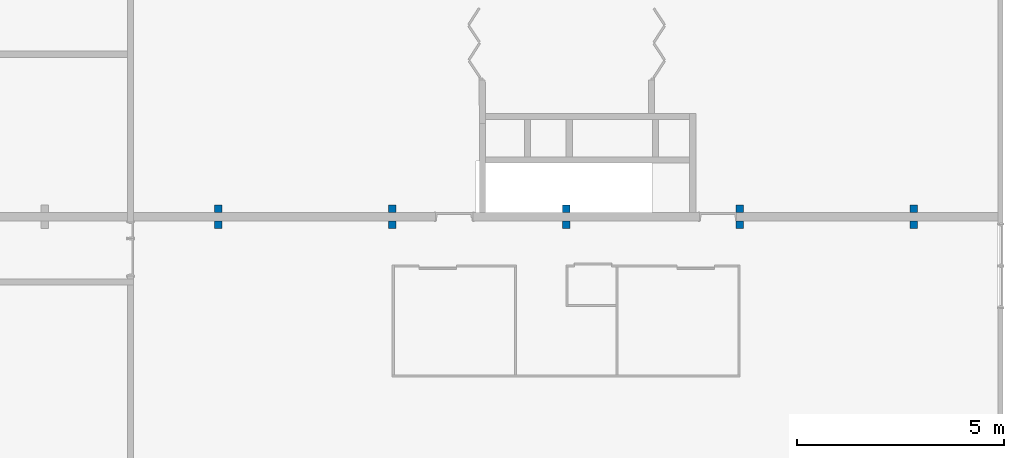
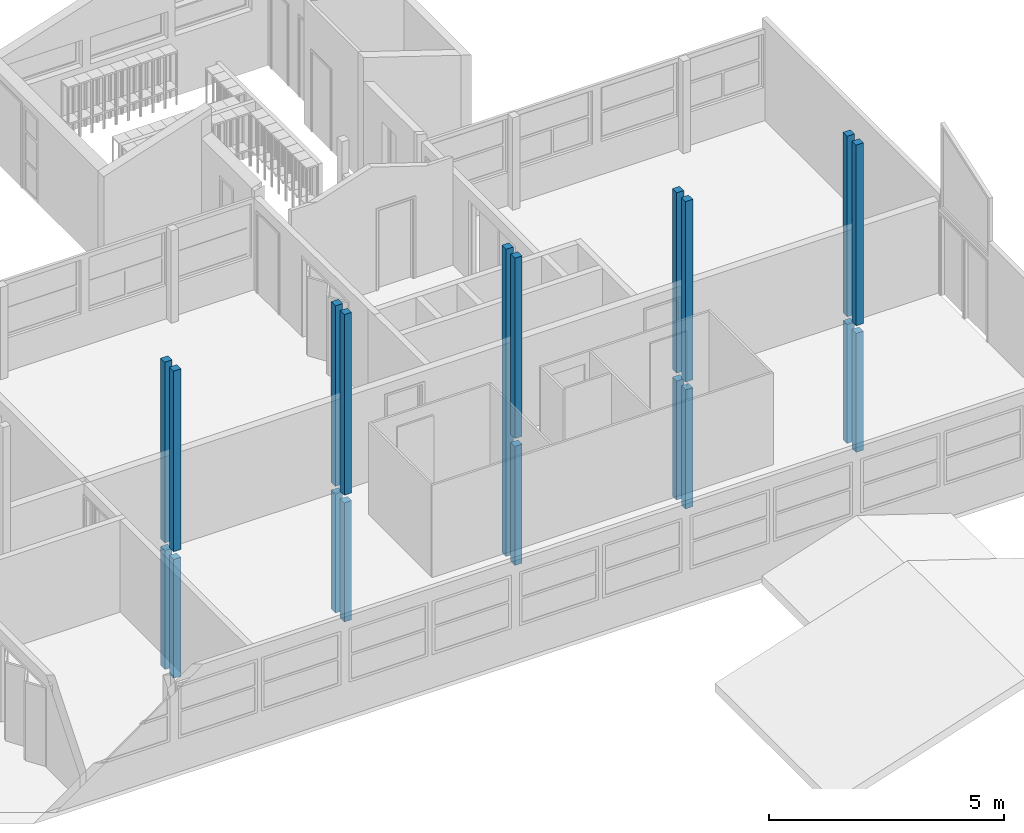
# One storey, part 2 of 48: 20 columns.
"""IFC2X3 building model written with IfcOpenShell, lengths in millimetres."""

from ifc_helpers import new_model, entity, si_unit, converted_unit, derived_unit, money_unit, direction, frame, origin_with_axes, place, context, subcontext, project, spatial, faceted_brep, source, transform, mapped, material, type_object, element, save


model = new_model("IFC2X3")

# Units and contexts
model_context = context("Model", 3, precision=0.01, world=origin_with_axes(), true_north=direction((0.0, 1.0)))
body_context = subcontext(model_context, "Body", "Model", "MODEL_VIEW")
ifc_project = project(units=[si_unit("LENGTHUNIT", "METRE", prefix="MILLI"), si_unit("AREAUNIT", "SQUARE_METRE"), si_unit("VOLUMEUNIT", "CUBIC_METRE"), converted_unit("PLANEANGLEUNIT", "DEGREE", entity("IfcPlaneAngleMeasure", 0.0174532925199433), si_unit("PLANEANGLEUNIT", "RADIAN"), dimensions=[0, 0, 0, 0, 0, 0, 0]), money_unit("USD"), converted_unit("TIMEUNIT", "Year", entity("IfcTimeMeasure", 31557600.0), si_unit("TIMEUNIT", "SECOND"), dimensions=[0, 0, 1, 0, 0, 0, 0]), si_unit("MASSUNIT", "GRAM", prefix="KILO"), si_unit("THERMODYNAMICTEMPERATUREUNIT", "DEGREE_CELSIUS"), si_unit("LUMINOUSINTENSITYUNIT", "LUMEN"), si_unit("ENERGYUNIT", "JOULE", prefix="MEGA"), derived_unit("THERMALCONDUCTANCEUNIT", [(si_unit("POWERUNIT", "WATT"), 1), (si_unit("LENGTHUNIT", "METRE"), -1), (si_unit("THERMODYNAMICTEMPERATUREUNIT", "KELVIN"), -1)]), derived_unit("SPECIFICHEATCAPACITYUNIT", [(si_unit("ENERGYUNIT", "JOULE"), 1), (si_unit("MASSUNIT", "GRAM", prefix="KILO"), -1), (si_unit("THERMODYNAMICTEMPERATUREUNIT", "KELVIN"), -1)]), derived_unit("MASSDENSITYUNIT", [(si_unit("MASSUNIT", "GRAM", prefix="KILO"), 1), (si_unit("VOLUMEUNIT", "CUBIC_METRE"), -1)])], contexts=[model_context])

# Site, building, storey
site_placement = place(None, origin_with_axes())
site = spatial("IfcSite", under=ifc_project, at=site_placement, Name="Site", CompositionType="ELEMENT")
building_placement = place(site_placement, origin_with_axes())
building = spatial("IfcBuilding", under=site, at=building_placement, Name="Building", CompositionType="ELEMENT")
storey_placement = place(building_placement, frame((0.0, 0.0, 3300.0), z_axis=(0.0, 0.0, 1.0), x_axis=(1.0, 0.0, 0.0)))
storey = spatial("IfcBuildingStorey", under=building, at=storey_placement, Name="1 ETG", CompositionType="ELEMENT", Elevation=3300.0)

# Columns
ifc_material = material(Name="GENERIC - STRUCTURAL")
column_type = type_object("IfcColumnType", Name="GENERIC - STRUCTURAL 180 x 180", PredefinedType="COLUMN")
shared_shape_1 = source(origin_with_axes(), body_context, "Body", "Brep", [
    faceted_brep([(57660.0, 14400.0, 0.0), (57660.0, 14400.0, 3100.0), (57840.0, 14400.0, 3100.0), (57840.0, 14400.0, 0.0), (57660.0, 14220.0, 0.0), (57660.0, 14220.0, 3100.0), (57840.0, 14220.0, 3100.0), (57840.0, 14220.0, 0.0)], [[[0, 1, 2, 3]], [[4, 5, 1, 0]], [[5, 6, 2, 1]], [[3, 2, 6, 7]], [[3, 7, 4, 0]], [[7, 6, 5, 4]]]),
    faceted_brep([(57840.0, 14220.0, 8000.0), (57840.0, 14220.0, 3300.0), (57840.0, 14400.0, 3300.0), (57840.0, 14400.0, 8000.0), (57660.0, 14220.0, 8000.0), (57660.0, 14220.0, 3300.0), (57660.0, 14400.0, 3300.0), (57660.0, 14400.0, 8000.0)], [[[0, 1, 2, 3]], [[4, 5, 1, 0]], [[5, 6, 2, 1]], [[3, 2, 6, 7]], [[3, 7, 4, 0]], [[7, 6, 5, 4]]]),
])
for number, where, z_axis, x_axis, name in (
    (1, (57750.0, 14310.0, -3300.0), (0.0, 0.0, 1.0), (1.0, 0.0, 0.0), "CRE - 001"),
    (2, (57750.0, 14310.0, -3300.0), (0.0, 0.0, 1.0), (1.0, 0.0, 0.0), "CRE - 001"),
):
    element("IfcColumn", number, at=place(storey_placement, frame(where, z_axis=z_axis, x_axis=x_axis)), inside=storey, type_object=column_type, material=ifc_material, Name=name, ObjectType="COLUMN", context=body_context, shape_type="MappedRepresentation", body=[
        mapped(shared_shape_1, transform((-57750.0, -14310.0, 0.0))),
    ])
shared_shape_2 = source(origin_with_axes(), body_context, "Body", "Brep", [
    faceted_brep([(53459.99999999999, 14400.0, 0.0), (53459.99999999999, 14400.0, 3100.0), (53640.0, 14400.0, 3100.0), (53640.0, 14400.0, 0.0), (53459.99999999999, 14220.0, 0.0), (53459.99999999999, 14220.0, 3100.0), (53640.0, 14220.0, 3100.0), (53640.0, 14220.0, 0.0)], [[[0, 1, 2, 3]], [[4, 5, 1, 0]], [[5, 6, 2, 1]], [[3, 2, 6, 7]], [[3, 7, 4, 0]], [[7, 6, 5, 4]]]),
    faceted_brep([(53640.0, 14220.0, 8000.0), (53640.0, 14220.0, 3300.0), (53640.0, 14400.0, 3300.0), (53640.0, 14400.0, 8000.0), (53459.99999999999, 14220.0, 8000.0), (53459.99999999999, 14220.0, 3300.0), (53459.99999999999, 14400.0, 3300.0), (53459.99999999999, 14400.0, 8000.0)], [[[0, 1, 2, 3]], [[4, 5, 1, 0]], [[5, 6, 2, 1]], [[3, 2, 6, 7]], [[3, 7, 4, 0]], [[7, 6, 5, 4]]]),
])
for number, where, z_axis, x_axis, name in (
    (3, (53550.0, 14310.0, -3300.0), (0.0, 0.0, 1.0), (1.0, 0.0, 0.0), "CRE - 001"),
    (4, (53550.0, 14310.0, -3300.0), (0.0, 0.0, 1.0), (1.0, 0.0, 0.0), "CRE - 001"),
):
    element("IfcColumn", number, at=place(storey_placement, frame(where, z_axis=z_axis, x_axis=x_axis)), inside=storey, type_object=column_type, material=ifc_material, Name=name, ObjectType="COLUMN", context=body_context, shape_type="MappedRepresentation", body=[
        mapped(shared_shape_2, transform((-53550.0, -14310.0, 0.0))),
    ])
shared_shape_3 = source(origin_with_axes(), body_context, "Body", "Brep", [
    faceted_brep([(66060.0, 14400.0, 0.0), (66060.0, 14400.0, 3100.0), (66240.00000000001, 14400.0, 3100.0), (66240.00000000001, 14400.0, 0.0), (66060.0, 14220.0, 0.0), (66060.0, 14220.0, 3100.0), (66240.00000000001, 14220.0, 3100.0), (66240.00000000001, 14220.0, 0.0)], [[[0, 1, 2, 3]], [[4, 5, 1, 0]], [[5, 6, 2, 1]], [[3, 2, 6, 7]], [[3, 7, 4, 0]], [[7, 6, 5, 4]]]),
    faceted_brep([(66240.00000000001, 14220.0, 8000.0), (66240.00000000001, 14220.0, 3300.0), (66240.00000000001, 14400.0, 3300.0), (66240.00000000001, 14400.0, 8000.0), (66060.0, 14220.0, 8000.0), (66060.0, 14220.0, 3300.0), (66060.0, 14400.0, 3300.0), (66060.0, 14400.0, 8000.0)], [[[0, 1, 2, 3]], [[4, 5, 1, 0]], [[5, 6, 2, 1]], [[3, 2, 6, 7]], [[3, 7, 4, 0]], [[7, 6, 5, 4]]]),
])
for number, where, z_axis, x_axis, name in (
    (5, (66150.0, 14310.0, -3300.0), (0.0, 0.0, 1.0), (1.0, 0.0, 0.0), "CRE - 001"),
    (6, (66150.0, 14310.0, -3300.0), (0.0, 0.0, 1.0), (1.0, 0.0, 0.0), "CRE - 001"),
):
    element("IfcColumn", number, at=place(storey_placement, frame(where, z_axis=z_axis, x_axis=x_axis)), inside=storey, type_object=column_type, material=ifc_material, Name=name, ObjectType="COLUMN", context=body_context, shape_type="MappedRepresentation", body=[
        mapped(shared_shape_3, transform((-66150.0, -14310.0, 0.0))),
    ])
shared_shape_4 = source(origin_with_axes(), body_context, "Body", "Brep", [
    faceted_brep([(70260.0, 14400.0, 0.0), (70260.0, 14400.0, 3100.0), (70440.00000000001, 14400.0, 3100.0), (70440.00000000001, 14400.0, 0.0), (70260.0, 14220.0, 0.0), (70260.0, 14220.0, 3100.0), (70440.00000000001, 14220.0, 3100.0), (70440.00000000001, 14220.0, 0.0)], [[[0, 1, 2, 3]], [[4, 5, 1, 0]], [[5, 6, 2, 1]], [[3, 2, 6, 7]], [[3, 7, 4, 0]], [[7, 6, 5, 4]]]),
    faceted_brep([(70440.00000000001, 14220.0, 8000.0), (70440.00000000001, 14220.0, 3300.0), (70440.00000000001, 14400.0, 3300.0), (70440.00000000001, 14400.0, 8000.0), (70260.0, 14220.0, 8000.0), (70260.0, 14220.0, 3300.0), (70260.0, 14400.0, 3300.0), (70260.0, 14400.0, 8000.0)], [[[0, 1, 2, 3]], [[4, 5, 1, 0]], [[5, 6, 2, 1]], [[3, 2, 6, 7]], [[3, 7, 4, 0]], [[7, 6, 5, 4]]]),
])
for number, where, z_axis, x_axis, name in (
    (7, (70350.00000000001, 14310.0, -3300.0), (0.0, 0.0, 1.0), (1.0, 0.0, 0.0), "CRE - 001"),
    (8, (70350.00000000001, 14310.0, -3300.0), (0.0, 0.0, 1.0), (1.0, 0.0, 0.0), "CRE - 001"),
):
    element("IfcColumn", number, at=place(storey_placement, frame(where, z_axis=z_axis, x_axis=x_axis)), inside=storey, type_object=column_type, material=ifc_material, Name=name, ObjectType="COLUMN", context=body_context, shape_type="MappedRepresentation", body=[
        mapped(shared_shape_4, transform((-70350.00000000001, -14310.0, 0.0))),
    ])
shared_shape_5 = source(origin_with_axes(), body_context, "Body", "Brep", [
    faceted_brep([(61860.0, 14400.0, 0.0), (61860.0, 14400.0, 3100.0), (62040.00000000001, 14400.0, 3100.0), (62040.00000000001, 14400.0, 0.0), (61860.0, 14220.0, 0.0), (61860.0, 14220.0, 3100.0), (62040.00000000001, 14220.0, 3100.0), (62040.00000000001, 14220.0, 0.0)], [[[0, 1, 2, 3]], [[4, 5, 1, 0]], [[5, 6, 2, 1]], [[3, 2, 6, 7]], [[3, 7, 4, 0]], [[7, 6, 5, 4]]]),
    faceted_brep([(62040.00000000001, 14220.0, 8000.0), (62040.00000000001, 14220.0, 3300.0), (62040.00000000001, 14400.0, 3300.0), (62040.00000000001, 14400.0, 8000.0), (61860.0, 14220.0, 8000.0), (61860.0, 14220.0, 3300.0), (61860.0, 14400.0, 3300.0), (61860.0, 14400.0, 8000.0)], [[[0, 1, 2, 3]], [[4, 5, 1, 0]], [[5, 6, 2, 1]], [[3, 2, 6, 7]], [[3, 7, 4, 0]], [[7, 6, 5, 4]]]),
])
for number, where, z_axis, x_axis, name in (
    (9, (61950.0, 14310.0, -3300.0), (0.0, 0.0, 1.0), (1.0, 0.0, 0.0), "CRE - 001"),
    (10, (61950.0, 14310.0, -3300.0), (0.0, 0.0, 1.0), (1.0, 0.0, 0.0), "CRE - 001"),
):
    element("IfcColumn", number, at=place(storey_placement, frame(where, z_axis=z_axis, x_axis=x_axis)), inside=storey, type_object=column_type, material=ifc_material, Name=name, ObjectType="COLUMN", context=body_context, shape_type="MappedRepresentation", body=[
        mapped(shared_shape_5, transform((-61950.0, -14310.0, 0.0))),
    ])
shared_shape_6 = source(origin_with_axes(), body_context, "Body", "Brep", [
    faceted_brep([(66060.0, 14780.0, 0.0), (66060.0, 14780.0, 3100.0), (66240.00000000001, 14780.0, 3100.0), (66240.00000000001, 14780.0, 0.0), (66060.0, 14600.0, 0.0), (66060.0, 14600.0, 3100.0), (66240.00000000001, 14600.0, 3100.0), (66240.00000000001, 14600.0, 0.0)], [[[0, 1, 2, 3]], [[4, 5, 1, 0]], [[5, 6, 2, 1]], [[3, 2, 6, 7]], [[3, 7, 4, 0]], [[7, 6, 5, 4]]]),
    faceted_brep([(66240.00000000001, 14600.0, 8000.0), (66240.00000000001, 14600.0, 3300.0), (66240.00000000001, 14780.0, 3300.0), (66240.00000000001, 14780.0, 8000.0), (66060.0, 14600.0, 8000.0), (66060.0, 14600.0, 3300.0), (66060.0, 14780.0, 3300.0), (66060.0, 14780.0, 8000.0)], [[[0, 1, 2, 3]], [[4, 5, 1, 0]], [[5, 6, 2, 1]], [[3, 2, 6, 7]], [[3, 7, 4, 0]], [[7, 6, 5, 4]]]),
])
for number, where, z_axis, x_axis, name in (
    (11, (66150.0, 14690.0, -3300.0), (0.0, 0.0, 1.0), (1.0, 0.0, 0.0), "CRE - 001"),
    (12, (66150.0, 14690.0, -3300.0), (0.0, 0.0, 1.0), (1.0, 0.0, 0.0), "CRE - 001"),
):
    element("IfcColumn", number, at=place(storey_placement, frame(where, z_axis=z_axis, x_axis=x_axis)), inside=storey, type_object=column_type, material=ifc_material, Name=name, ObjectType="COLUMN", context=body_context, shape_type="MappedRepresentation", body=[
        mapped(shared_shape_6, transform((-66150.0, -14690.0, 0.0))),
    ])
shared_shape_7 = source(origin_with_axes(), body_context, "Body", "Brep", [
    faceted_brep([(70260.0, 14780.0, 0.0), (70260.0, 14780.0, 3100.0), (70440.00000000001, 14780.0, 3100.0), (70440.00000000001, 14780.0, 0.0), (70260.0, 14600.0, 0.0), (70260.0, 14600.0, 3100.0), (70440.00000000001, 14600.0, 3100.0), (70440.00000000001, 14600.0, 0.0)], [[[0, 1, 2, 3]], [[4, 5, 1, 0]], [[5, 6, 2, 1]], [[3, 2, 6, 7]], [[3, 7, 4, 0]], [[7, 6, 5, 4]]]),
    faceted_brep([(70440.00000000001, 14600.0, 8000.0), (70440.00000000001, 14600.0, 3300.0), (70440.00000000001, 14780.0, 3300.0), (70440.00000000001, 14780.0, 8000.0), (70260.0, 14600.0, 8000.0), (70260.0, 14600.0, 3300.0), (70260.0, 14780.0, 3300.0), (70260.0, 14780.0, 8000.0)], [[[0, 1, 2, 3]], [[4, 5, 1, 0]], [[5, 6, 2, 1]], [[3, 2, 6, 7]], [[3, 7, 4, 0]], [[7, 6, 5, 4]]]),
])
for number, where, z_axis, x_axis, name in (
    (13, (70350.00000000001, 14690.0, -3300.0), (0.0, 0.0, 1.0), (1.0, 0.0, 0.0), "CRE - 001"),
    (14, (70350.00000000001, 14690.0, -3300.0), (0.0, 0.0, 1.0), (1.0, 0.0, 0.0), "CRE - 001"),
):
    element("IfcColumn", number, at=place(storey_placement, frame(where, z_axis=z_axis, x_axis=x_axis)), inside=storey, type_object=column_type, material=ifc_material, Name=name, ObjectType="COLUMN", context=body_context, shape_type="MappedRepresentation", body=[
        mapped(shared_shape_7, transform((-70350.00000000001, -14690.0, 0.0))),
    ])
shared_shape_8 = source(origin_with_axes(), body_context, "Body", "Brep", [
    faceted_brep([(62040.00000000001, 14600.0, 8000.0), (61860.0, 14600.0, 8000.0), (61860.0, 14600.0, 0.0), (62040.00000000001, 14600.0, 0.0), (62040.00000000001, 14780.0, 8000.0), (61860.0, 14780.0, 8000.0), (61860.0, 14780.0, 0.0), (62040.00000000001, 14780.0, 0.0)], [[[0, 1, 2, 3]], [[4, 5, 1, 0]], [[1, 5, 6, 2]], [[7, 3, 2, 6]], [[4, 0, 3, 7]], [[5, 4, 7, 6]]]),
])
for number, where, z_axis, x_axis, name in (
    (15, (61950.0, 14690.0, -3300.0), (0.0, 0.0, 1.0), (1.0, 0.0, 0.0), "CRE - 001"),
    (16, (61950.0, 14690.0, -3300.0), (0.0, 0.0, 1.0), (1.0, 0.0, 0.0), "CRE - 001"),
):
    element("IfcColumn", number, at=place(storey_placement, frame(where, z_axis=z_axis, x_axis=x_axis)), inside=storey, type_object=column_type, material=ifc_material, Name=name, ObjectType="COLUMN", context=body_context, shape_type="MappedRepresentation", body=[
        mapped(shared_shape_8, transform((-61950.0, -14690.0, 0.0))),
    ])
shared_shape_9 = source(origin_with_axes(), body_context, "Body", "Brep", [
    faceted_brep([(57660.0, 14780.0, 0.0), (57660.0, 14780.0, 3100.0), (57840.0, 14780.0, 3100.0), (57840.0, 14780.0, 0.0), (57660.0, 14600.0, 0.0), (57660.0, 14600.0, 3100.0), (57840.0, 14600.0, 3100.0), (57840.0, 14600.0, 0.0)], [[[0, 1, 2, 3]], [[4, 5, 1, 0]], [[5, 6, 2, 1]], [[3, 2, 6, 7]], [[3, 7, 4, 0]], [[7, 6, 5, 4]]]),
    faceted_brep([(57840.0, 14600.0, 8000.0), (57840.0, 14600.0, 3300.0), (57840.0, 14780.0, 3300.0), (57840.0, 14780.0, 8000.0), (57660.0, 14600.0, 8000.0), (57660.0, 14600.0, 3300.0), (57660.0, 14780.0, 3300.0), (57660.0, 14780.0, 8000.0)], [[[0, 1, 2, 3]], [[4, 5, 1, 0]], [[5, 6, 2, 1]], [[3, 2, 6, 7]], [[3, 7, 4, 0]], [[7, 6, 5, 4]]]),
])
for number, where, z_axis, x_axis, name in (
    (17, (57750.0, 14690.0, -3300.0), (0.0, 0.0, 1.0), (1.0, 0.0, 0.0), "CRE - 001"),
    (18, (57750.0, 14690.0, -3300.0), (0.0, 0.0, 1.0), (1.0, 0.0, 0.0), "CRE - 001"),
):
    element("IfcColumn", number, at=place(storey_placement, frame(where, z_axis=z_axis, x_axis=x_axis)), inside=storey, type_object=column_type, material=ifc_material, Name=name, ObjectType="COLUMN", context=body_context, shape_type="MappedRepresentation", body=[
        mapped(shared_shape_9, transform((-57750.0, -14690.0, 0.0))),
    ])
shared_shape_10 = source(origin_with_axes(), body_context, "Body", "Brep", [
    faceted_brep([(53459.99999999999, 14780.0, 0.0), (53459.99999999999, 14780.0, 3100.0), (53640.0, 14780.0, 3100.0), (53640.0, 14780.0, 0.0), (53459.99999999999, 14600.0, 0.0), (53459.99999999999, 14600.0, 3100.0), (53640.0, 14600.0, 3100.0), (53640.0, 14600.0, 0.0)], [[[0, 1, 2, 3]], [[4, 5, 1, 0]], [[5, 6, 2, 1]], [[3, 2, 6, 7]], [[3, 7, 4, 0]], [[7, 6, 5, 4]]]),
    faceted_brep([(53640.0, 14600.0, 8000.0), (53640.0, 14600.0, 3300.0), (53640.0, 14780.0, 3300.0), (53640.0, 14780.0, 8000.0), (53459.99999999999, 14600.0, 8000.0), (53459.99999999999, 14600.0, 3300.0), (53459.99999999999, 14780.0, 3300.0), (53459.99999999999, 14780.0, 8000.0)], [[[0, 1, 2, 3]], [[4, 5, 1, 0]], [[5, 6, 2, 1]], [[3, 2, 6, 7]], [[3, 7, 4, 0]], [[7, 6, 5, 4]]]),
])
for number, where, z_axis, x_axis, name in (
    (19, (53550.0, 14690.0, -3300.0), (0.0, 0.0, 1.0), (1.0, 0.0, 0.0), "CRE - 001"),
    (20, (53550.0, 14690.0, -3300.0), (0.0, 0.0, 1.0), (1.0, 0.0, 0.0), "CRE - 001"),
):
    element("IfcColumn", number, at=place(storey_placement, frame(where, z_axis=z_axis, x_axis=x_axis)), inside=storey, type_object=column_type, material=ifc_material, Name=name, ObjectType="COLUMN", context=body_context, shape_type="MappedRepresentation", body=[
        mapped(shared_shape_10, transform((-53550.0, -14690.0, 0.0))),
    ])

save(model, "model.ifc")
